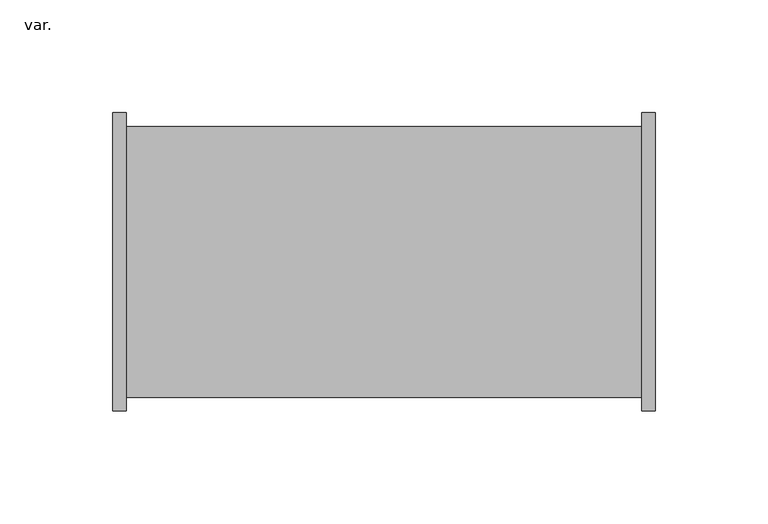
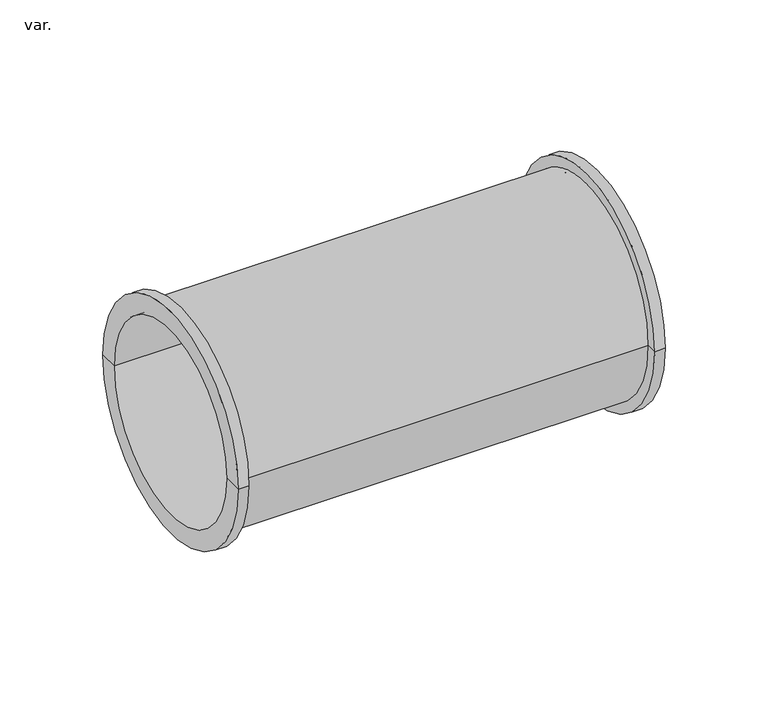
"""IFC4 building model written with IfcOpenShell, lengths in millimetres: pipe fitting geometry, PIA_UN_S&W PVC-HT Protection Coupler_Wavin : var.."""

from ifc_helpers import new_model, si_unit, frame, origin, place, context, project, spatial, polyline, circle_curve, source, transform, mapped, element, save
from ifc_brep_helpers import plane_surface, cylinder_surface, revolved_surface, advanced_brep


def var_84020337(model_context):
    return source(origin(), model_context, "Body", "AdvancedBrep", [
        advanced_brep(
        [(-120.0, -55.0, -55.0), (-120.0, 55.0, -55.0), (-120.0, 66.0, -55.0), (-120.0, -66.0, -55.0), (120.0, -55.0, -55.0), (120.0, 55.0, -55.0), (120.0, -66.0, -55.0), (120.0, 66.0, -55.0), (114.0, -66.0, -55.0), (114.0, 66.0, -55.0), (114.0, -60.0, -55.0), (114.0, 60.0, -55.0), (-114.0, -60.0, -55.0), (-114.0, 60.0, -55.0), (-114.0, -66.0, -55.0), (-114.0, 66.0, -55.0)],
        [
            (0, 1, circle_curve(frame((-120.0, 0.0, -55.0), z_axis=(1.0, 0.0, 0.0), x_axis=(0.0, 1.0, 0.0)), 55.0)),
            (1, 2),
            (2, 3, circle_curve(frame((-120.0, 0.0, -55.0), z_axis=(-1.0, 0.0, 0.0), x_axis=(0.0, 1.0, 0.0)), 66.0)),
            (3, 0),
            (1, 0, circle_curve(frame((-120.0, 0.0, -55.0), z_axis=(1.0, 0.0, 0.0), x_axis=(0.0, 1.0, 0.0)), 55.0)),
            (3, 2, circle_curve(frame((-120.0, 0.0, -55.0), z_axis=(-1.0, 0.0, 0.0), x_axis=(0.0, 1.0, 0.0)), 66.0)),
            (4, 5, circle_curve(frame((120.0, 0.0, -55.0), z_axis=(1.0, 0.0, 0.0), x_axis=(0.0, 1.0, 0.0)), 55.0)),
            (5, 1),
            (0, 4),
            (5, 4, circle_curve(frame((120.0, 0.0, -55.0), z_axis=(1.0, 0.0, 0.0), x_axis=(0.0, 1.0, 0.0)), 55.0)),
            (6, 7, circle_curve(frame((120.0, 0.0, -55.0), z_axis=(1.0, 0.0, 0.0), x_axis=(0.0, 1.0, 0.0)), 66.0)),
            (7, 5),
            (4, 6),
            (7, 6, circle_curve(frame((120.0, 0.0, -55.0), z_axis=(1.0, 0.0, 0.0), x_axis=(0.0, 1.0, 0.0)), 66.0)),
            (8, 9, circle_curve(frame((114.0, 0.0, -55.0), z_axis=(1.0, 0.0, 0.0), x_axis=(0.0, 1.0, 0.0)), 66.0)),
            (9, 7),
            (6, 8),
            (9, 8, circle_curve(frame((114.0, 0.0, -55.0), z_axis=(1.0, 0.0, 0.0), x_axis=(0.0, 1.0, 0.0)), 66.0)),
            (10, 11, circle_curve(frame((114.0, 0.0, -55.0), z_axis=(1.0, 0.0, 0.0), x_axis=(0.0, 1.0, 0.0)), 60.0)),
            (11, 9),
            (8, 10),
            (11, 10, circle_curve(frame((114.0, 0.0, -55.0), z_axis=(1.0, 0.0, 0.0), x_axis=(0.0, 1.0, 0.0)), 60.0)),
            (12, 13, circle_curve(frame((-114.0, 0.0, -55.0), z_axis=(1.0, 0.0, 0.0), x_axis=(0.0, 1.0, 0.0)), 60.0)),
            (13, 11),
            (10, 12),
            (13, 12, circle_curve(frame((-114.0, 0.0, -55.0), z_axis=(1.0, 0.0, 0.0), x_axis=(0.0, 1.0, 0.0)), 60.0)),
            (14, 15, circle_curve(frame((-114.0, 0.0, -55.0), z_axis=(1.0, 0.0, 0.0), x_axis=(0.0, 1.0, 0.0)), 66.0)),
            (15, 13),
            (12, 14),
            (15, 14, circle_curve(frame((-114.0, 0.0, -55.0), z_axis=(1.0, 0.0, 0.0), x_axis=(0.0, 1.0, 0.0)), 66.0)),
            (2, 15),
            (14, 3),
        ],
        [
            plane_surface(frame((-120.0, 0.0, -55.0), z_axis=(-1.0, 0.0, 0.0), x_axis=(0.0, 1.0, 0.0))),
            revolved_surface(polyline([(-120.0, 55.0, -55.0), (120.0, 55.0, -55.0)]), (-223.7460463, 0.0, -55.0), (-1.0, 0.0, 0.0)),
            plane_surface(frame((120.0, 0.0, -55.0), z_axis=(1.0, 0.0, 0.0), x_axis=(0.0, 1.0, 0.0))),
            cylinder_surface(frame((-223.7460463, 0.0, -55.0), z_axis=(-1.0, 0.0, 0.0), x_axis=(0.0, 1.0, 0.0)), 66.0),
            plane_surface(frame((114.0, 0.0, -55.0), z_axis=(-1.0, 0.0, 0.0), x_axis=(0.0, 1.0, 0.0))),
            cylinder_surface(frame((-223.7460463, 0.0, -55.0), z_axis=(-1.0, 0.0, 0.0), x_axis=(0.0, 1.0, 0.0)), 60.0),
            plane_surface(frame((-114.0, 0.0, -55.0), z_axis=(1.0, 0.0, 0.0), x_axis=(0.0, 1.0, 0.0))),
        ],
        [
            (0, [[1, 2, 3, 4]]),
            (0, [[5, -4, 6, -2]]),
            (1, [[7, 8, -1, 9]]),
            (1, [[10, -9, -5, -8]]),
            (2, [[11, 12, -7, 13]]),
            (2, [[14, -13, -10, -12]]),
            (3, [[15, 16, -11, 17]]),
            (3, [[18, -17, -14, -16]]),
            (4, [[19, 20, -15, 21]]),
            (4, [[22, -21, -18, -20]]),
            (5, [[23, 24, -19, 25]]),
            (5, [[26, -25, -22, -24]]),
            (6, [[27, 28, -23, 29]]),
            (6, [[30, -29, -26, -28]]),
            (3, [[-3, 31, -27, 32]]),
            (3, [[-6, -32, -30, -31]]),
        ],
    ),
    ])


if __name__ == "__main__":
    model = new_model("IFC4")
    model_context = context("Model", 3, world=origin())
    ifc_project = project(units=[si_unit("LENGTHUNIT", "METRE", prefix="MILLI")], contexts=[model_context])
    site = spatial("IfcSite", under=ifc_project)
    building = spatial("IfcBuilding", under=site)
    placement = place(None, origin())
    var_shape = var_84020337(model_context)
    element("IfcPipeFitting", 1, ObjectType="PIA_UN_S&W PVC-HT Protection Coupler_Wavin : var.", at=placement, inside=building, context=model_context, shape_type="MappedRepresentation", body=[
        mapped(var_shape, transform((0.0, 0.0, 0.0), x_axis=(1.0, 0.0, 0.0), y_axis=(0.0, 1.0, 0.0), z_axis=(0.0, 0.0, 1.0))),
    ])
    save(model, "model.ifc")
